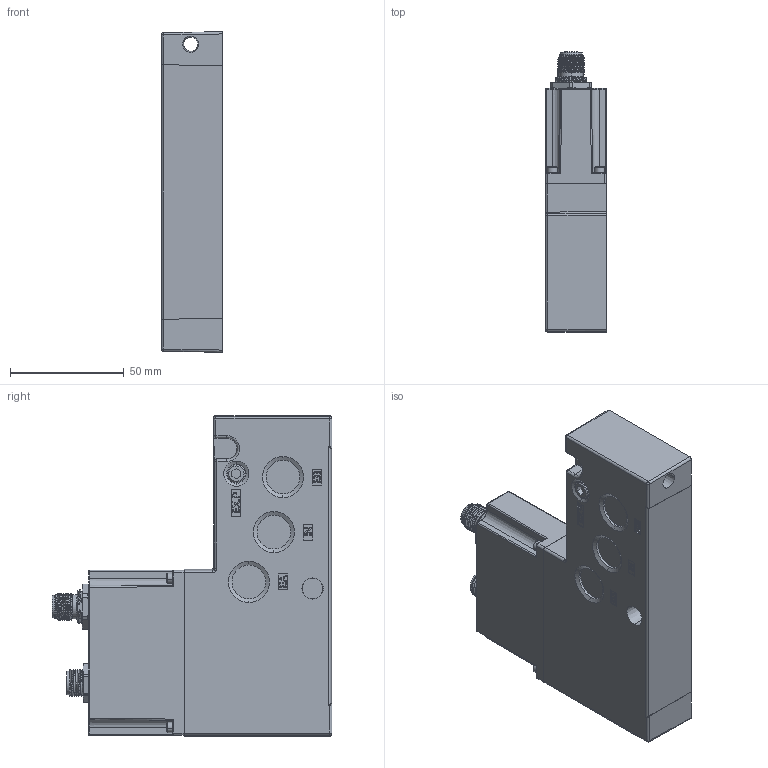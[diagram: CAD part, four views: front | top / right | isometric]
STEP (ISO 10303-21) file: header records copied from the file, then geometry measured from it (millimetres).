
FILE_DESCRIPTION (( 'STEP AP214' ), '1' );
FILE_NAME ('CLASS A MIO Link 92.STEP', '2024-08-23T18:51:23', ( '' ), ( '' ), 'SwSTEP 2.0', 'SolidWorks 2020', '' );
FILE_SCHEMA (( 'AUTOMOTIVE_DESIGN' ));
Length unit declared in the file: millimetre
Products named in the file (4): CLASS A MIO Link 92; 32813(SC); M-M0008-A(SC)_CLASS A; 89219(SC)
Assembly tree (3 placements, depth 2):
  CLASS A MIO Link 92
    32813(SC)
    M-M0008-A(SC)_CLASS A
    89219(SC)
Bounding box: 26.8 x 123 x 140.98 mm (x, y, z)
Volume: 282337 mm3; surface area: 50583.2 mm2
Topology: 20 solids, 20 shells, 1662 faces, 4127 edges, 2536 vertices
Faces by surface type: plane 543, cylinder 487, cone 271, bspline 228, torus 84, sphere 49
Entity records: 156564 total; most frequent: CARTESIAN_POINT 100957, ORIENTED_EDGE 8088, DIRECTION 7254, EDGE_CURVE 4044, AXIS2_PLACEMENT_3D 2674, VERTEX_POINT 2536, LINE 1906, VECTOR 1906
